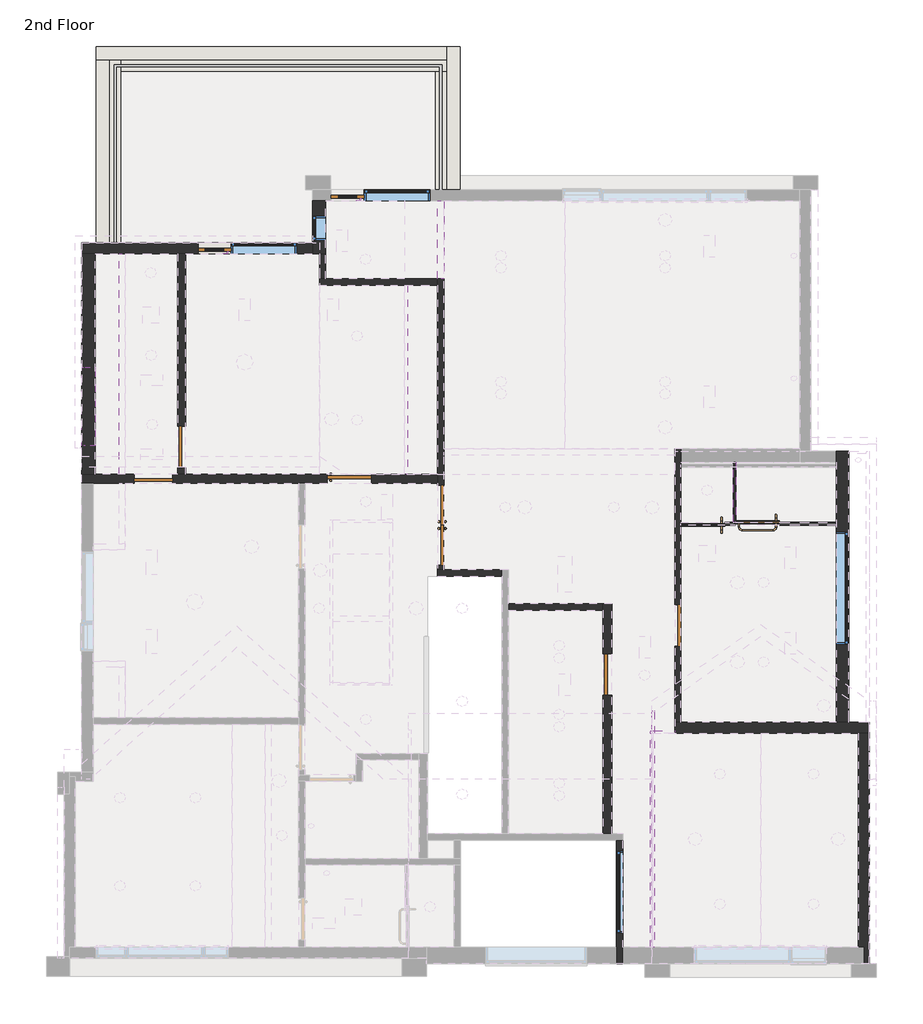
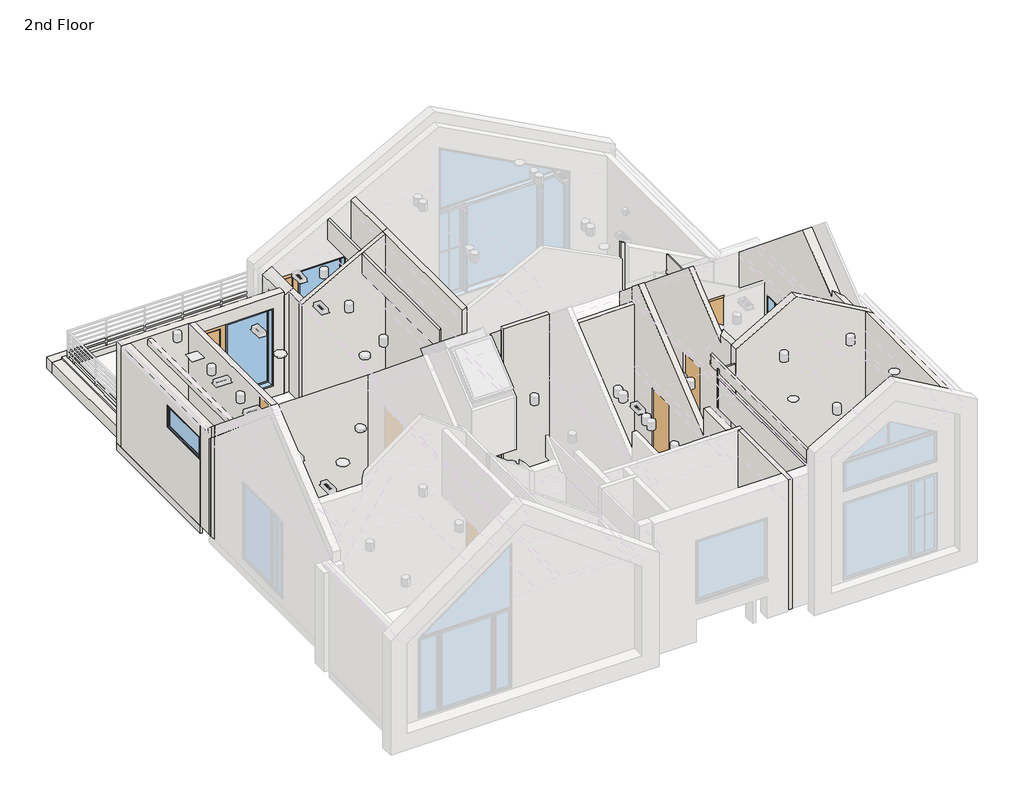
# One storey, part 2 of 6: 37 walls, 17 doors, 6 windows.
"""IFC4 building model written with IfcOpenShell, lengths in millimetres."""

from ifc_helpers import new_model, si_unit, frame, origin, place, context, project, spatial, polyline, outline, extrude, faceted_brep, transform, mapped, element, save
from components import door_f305abca, door_1181abbb, door_c8a44f2a, door_60dcc4f9, door_4c06adda, door_9242a0c5, door_301a0385, door_072e9414, door_679f055a, door_accf3dfc, door_96b5f492, door_11404014, door_c850c315, door_a6d17446, default_1_7d7789d7, default_1_42b8000c, default_1_0d0a700f, default_1_19df42c6, default_1_91f42d4c, default_1_39be3eb0

model = new_model("IFC4")

# Units and contexts
model_context = context("Model", 3, world=origin())
ifc_project = project(units=[si_unit("LENGTHUNIT", "METRE", prefix="MILLI")], contexts=[model_context])

# Site, building, storey
site = spatial("IfcSite", under=ifc_project)
building = spatial("IfcBuilding", under=site)
storey = spatial("IfcBuildingStorey", under=building, Name="2nd Floor", Elevation=3048.0)

# Doors
placement = place(None, origin())
door_shape = door_f305abca(model_context)
element("IfcDoor", 1, ObjectType="Planitar - Swap_Flush Panel : Planitar - Swap_Flush Panel", at=placement, inside=storey, context=model_context, shape_type="MappedRepresentation", body=[
    mapped(door_shape, transform((18552.3049773, 5441.3605234, 3048.0), x_axis=(0.0, 1.0, 0.0), y_axis=(-1.0, 0.0, 0.0), z_axis=(0.0, 0.0, 1.0))),
])
element("IfcDoor", 2, ObjectType="Planitar - Swap_Flush Panel : Planitar - Swap_Flush Panel", at=placement, inside=storey, context=model_context, shape_type="MappedRepresentation", body=[
    mapped(door_shape, transform((17199.7549773, 4537.2191332, 3048.0), x_axis=(0.0, -1.0, 0.0), y_axis=(1.0, 0.0, 0.0), z_axis=(0.0, 0.0, 1.0))),
])
door_2_shape = door_1181abbb(model_context)
element("IfcDoor", 3, ObjectType="Planitar - Swap_Flush Panel : Planitar - Swap_Flush Panel", at=placement, inside=storey, context=model_context, shape_type="MappedRepresentation", body=[
    mapped(door_2_shape, transform((12462.6549773, 8177.5409405, 3048.0), x_axis=(1.0, 0.0, 0.0), y_axis=(0.0, 1.0, 0.0), z_axis=(0.0, 0.0, 1.0))),
])
door_3_shape = door_c8a44f2a(model_context)
element("IfcDoor", 4, ObjectType="Planitar - Swap_Flush Panel : Planitar - Swap_Flush Panel", at=placement, inside=storey, context=model_context, shape_type="MappedRepresentation", body=[
    mapped(door_3_shape, transform((9344.8049773, 8735.2484362, 3048.0), x_axis=(0.0, 1.0, 0.0), y_axis=(-1.0, 0.0, 0.0), z_axis=(0.0, 0.0, 1.0))),
])
door_4_shape = door_60dcc4f9(model_context)
element("IfcDoor", 5, ObjectType="Planitar - Swap_Full Glass_Panel : Planitar - Swap_Full Glass_Panel", at=placement, inside=storey, context=model_context, shape_type="MappedRepresentation", body=[
    mapped(door_4_shape, transform((12430.9049773, 13352.7909405, 3352.8), x_axis=(-1.0, 0.0, 0.0), y_axis=(0.0, -1.0, 0.0), z_axis=(0.0, 0.0, 1.0))),
])
element("IfcDoor", 6, ObjectType="Planitar - Swap_Full Glass_Panel : Planitar - Swap_Full Glass_Panel", at=placement, inside=storey, context=model_context, shape_type="MappedRepresentation", body=[
    mapped(door_4_shape, transform((9973.4549773, 12374.8909405, 3352.8), x_axis=(-1.0, 0.0, 0.0), y_axis=(0.0, -1.0, 0.0), z_axis=(0.0, 0.0, 1.0))),
])
door_5_shape = door_4c06adda(model_context)
element("IfcDoor", 7, ObjectType="Planitar - Swap_Full Glass_Panel_D2 : Planitar - Swap_Full Glass_Panel_D2", at=placement, inside=storey, context=model_context, shape_type="MappedRepresentation", body=[
    mapped(door_5_shape, transform((18990.4549773, 7294.8909405, 3048.0), x_axis=(-1.0, 0.0, 0.0), y_axis=(0.0, -1.0, 0.0), z_axis=(0.0, 0.0, 1.0))),
])
door_6_shape = door_9242a0c5(model_context)
element("IfcDoor", 8, ObjectType="Planitar - Swap_Flush Panel : Planitar - Swap_Flush Panel", at=placement, inside=storey, context=model_context, shape_type="MappedRepresentation", body=[
    mapped(door_6_shape, transform((14177.1549773, 6926.5909405, 3048.0), x_axis=(0.0, -1.0, 0.0), y_axis=(1.0, 0.0, 0.0), z_axis=(0.0, 0.0, 1.0))),
])
door_7_shape = door_301a0385(model_context)
element("IfcDoor", 9, ObjectType="Planitar - Swap_Flush Panel : Planitar - Swap_Flush Panel", at=placement, inside=storey, context=model_context, shape_type="MappedRepresentation", body=[
    mapped(door_7_shape, transform((14177.1549773, 7663.1909405, 3048.0), x_axis=(0.0, 1.0, 0.0), y_axis=(-1.0, 0.0, 0.0), z_axis=(0.0, 0.0, 1.0))),
])
door_8_shape = door_072e9414(model_context)
element("IfcDoor", 10, ObjectType="Planitar - Swap_Full Glass_Panel_D2 : Planitar - Swap_Full Glass_Panel_D2", at=placement, inside=storey, context=model_context, shape_type="MappedRepresentation", body=[
    mapped(door_8_shape, transform((19993.7549773, 7345.6909405, 3048.0), x_axis=(-1.0, 0.0, 0.0), y_axis=(0.0, -1.0, 0.0), z_axis=(0.0, 0.0, 1.0))),
])
door_9_shape = door_679f055a(model_context)
element("IfcDoor", 11, ObjectType="Planitar - Swap_Flush Panel : Planitar - Swap_Flush Panel", at=placement, inside=storey, context=model_context, shape_type="MappedRepresentation", body=[
    mapped(door_9_shape, transform((8849.5049773, 8126.7409405, 3048.0), x_axis=(1.0, 0.0, 0.0), y_axis=(0.0, 1.0, 0.0), z_axis=(0.0, 0.0, 1.0))),
])
door_10_shape = door_accf3dfc(model_context)
element("IfcDoor", 12, ObjectType="Planitar - Single Door_Swapper : 7'0\" x 2'0\"", at=placement, inside=storey, context=model_context, shape_type="MappedRepresentation", body=[
    mapped(door_10_shape, transform((12430.9049773, 13378.1909405, 3352.8), x_axis=(-1.0, 0.0, 0.0), y_axis=(0.0, -1.0, 0.0), z_axis=(0.0, 0.0, 1.0))),
])
element("IfcDoor", 13, ObjectType="Planitar - Single Door_Swapper : 7'0\" x 2'0\"", at=placement, inside=storey, context=model_context, shape_type="MappedRepresentation", body=[
    mapped(door_10_shape, transform((9973.4549773, 12400.2909405, 3352.8), x_axis=(-1.0, 0.0, 0.0), y_axis=(0.0, -1.0, 0.0), z_axis=(0.0, 0.0, 1.0))),
])
door_11_shape = door_96b5f492(model_context)
element("IfcDoor", 14, ObjectType="Planitar -Double Door_Swapper : 9'-0\" x 4'-10\"", at=placement, inside=storey, context=model_context, shape_type="MappedRepresentation", body=[
    mapped(door_11_shape, transform((14151.7549773, 6685.2909405, 3048.0), x_axis=(0.0, -1.0, 0.0), y_axis=(1.0, 0.0, 0.0), z_axis=(0.0, 0.0, 1.0))),
])
door_12_shape = door_11404014(model_context)
element("IfcDoor", 15, ObjectType="Planitar - Single Door_Swapper : 9'0\" x 2'8\"", at=placement, inside=storey, context=model_context, shape_type="MappedRepresentation", body=[
    mapped(door_12_shape, transform((12462.6549773, 8152.1409405, 3048.0), x_axis=(1.0, 0.0, 0.0), y_axis=(0.0, 1.0, 0.0), z_axis=(0.0, 0.0, 1.0))),
])
door_13_shape = door_c850c315(model_context)
element("IfcDoor", 16, ObjectType="Planitar - Single Door_Swapper : 9'0\" x 2'8\"", at=placement, inside=storey, context=model_context, shape_type="MappedRepresentation", body=[
    mapped(door_13_shape, transform((18990.4549773, 7320.2909405, 3048.0), x_axis=(-1.0, 0.0, 0.0), y_axis=(0.0, -1.0, 0.0), z_axis=(0.0, 0.0, 1.0))),
])
door_14_shape = door_a6d17446(model_context)
element("IfcDoor", 17, ObjectType="Planitar - Single Door_Swapper : 9'0\" x 2'8\"", at=placement, inside=storey, context=model_context, shape_type="MappedRepresentation", body=[
    mapped(door_14_shape, transform((19993.7549773, 7320.2909405, 3048.0), x_axis=(-1.0, 0.0, 0.0), y_axis=(0.0, -1.0, 0.0), z_axis=(0.0, 0.0, 1.0))),
])

# Walls
element("IfcWall", 18, ObjectType="Planitar - Generic 9\"", at=placement, inside=storey, context=model_context, shape_type="Brep", body=[
    faceted_brep([(21676.5049773, 3656.3409405, 3048.0), (21676.5049773, 8660.1409405, 3048.0), (21676.5049773, 8660.1409405, 5619.75), (21676.5049773, 8660.1409405, 5723.9400838), (21676.5049773, 8609.3409405, 5765.6161173), (21676.5049773, 5565.4864039, 8262.7772128), (21676.5049773, 4086.3456855, 7048.6447778), (21676.5049773, 4086.3456855, 7256.2766673), (21676.5049773, 3656.3409405, 7256.2766673), (21676.5049773, 7174.2409405, 3352.8), (21676.5049773, 5091.4409405, 3352.8), (21676.5049773, 5091.4409405, 5486.4), (21676.5049773, 7174.2409405, 5486.4), (21447.9049773, 3656.3409405, 3048.0), (21447.9049773, 3656.3409405, 7388.2589388), (21447.9049773, 4248.2226223, 7388.2589388), (21447.9049773, 4248.2226223, 7181.519248), (21447.9049773, 5565.4864039, 8262.7772128), (21447.9049773, 8456.9409405, 5890.6442178), (21447.9049773, 8660.1409405, 5723.9400838), (21447.9049773, 8660.1409405, 3048.0), (21447.9049773, 8456.9409405, 3048.0), (21447.9049773, 8412.4909405, 3048.0), (21447.9049773, 8361.6909405, 3048.0), (21447.9049773, 7345.6909405, 3048.0), (21447.9049773, 7294.8909405, 3048.0), (21447.9049773, 7174.2409405, 3352.8), (21447.9049773, 7174.2409405, 5486.4), (21447.9049773, 5091.4409405, 5486.4), (21447.9049773, 5091.4409405, 3352.8), (21473.3049773, 3656.3409405, 3048.0), (21473.3049773, 8660.1409405, 3048.0)], [[[0, 1, 2, 3, 4, 5, 6, 7, 8], [9, 10, 11, 12]], [[13, 14, 15, 16, 17, 18, 19, 20, 21, 22, 23, 24, 25], [26, 27, 28, 29]], [[1, 0, 30, 13, 25, 24, 23, 22, 21, 20, 31]], [[3, 2, 1, 31, 20, 19]], [[27, 26, 9, 12]], [[28, 27, 12, 11]], [[29, 28, 11, 10]], [[26, 29, 10, 9]], [[0, 8, 14, 13, 30]], [[6, 16, 15, 7]], [[8, 7, 15, 14]], [[6, 5, 17, 16]], [[5, 4, 3, 19, 18, 17]]]),
])
element("IfcWall", 19, ObjectType="Planitar - Generic 9 1/2\"", at=placement, inside=storey, context=model_context, shape_type="Brep", body=[
    faceted_brep([(11783.2049773, 13276.5909405, 3048.0), (11783.2049773, 12501.8909405, 3048.0), (11783.2049773, 12298.6909405, 3048.0), (11783.2049773, 12298.6909405, 5742.6488962), (11783.2049773, 13276.5909405, 5742.6488962), (11783.2049773, 12539.9909405, 5486.4), (11783.2049773, 12539.9909405, 3352.8), (11783.2049773, 12997.1909405, 3352.8), (11783.2049773, 12997.1909405, 5486.4), (12024.5049773, 12298.6909405, 3048.0), (12024.5049773, 13276.5909405, 3048.0), (12024.5049773, 13276.5909405, 5872.3040631), (12024.5049773, 12298.6909405, 5872.3040631), (12024.5049773, 12539.9909405, 3352.8), (12024.5049773, 12539.9909405, 5486.4), (12024.5049773, 12997.1909405, 5486.4), (12024.5049773, 12997.1909405, 3352.8), (11910.2049773, 12298.6909405, 3048.0), (11872.1049773, 13276.5909405, 5790.4165892), (11910.2049773, 12298.6909405, 5810.8884577), (11872.1049773, 12298.6909405, 5790.4165892)], [[[0, 1, 2, 3, 4], [5, 6, 7, 8]], [[9, 10, 11, 12], [13, 14, 15, 16]], [[2, 1, 0, 10, 9, 17]], [[0, 4, 18, 11, 10]], [[3, 2, 17, 9, 12, 19, 20]], [[13, 6, 5, 14]], [[14, 5, 8, 15]], [[15, 8, 7, 16]], [[6, 13, 16, 7]], [[4, 3, 20, 19, 12, 11, 18]]]),
])
element("IfcWall", 20, ObjectType="Planitar - Generic 8\"", at=placement, inside=storey, context=model_context, shape_type="Brep", body=[
    faceted_brep([(11783.2049773, 12501.8909405, 3048.0), (8246.2549773, 12501.8909405, 3048.0), (8043.0549773, 12501.8909405, 3048.0), (7789.0549773, 12501.8909405, 3048.0), (7579.5049773, 12501.8909405, 3048.0), (7528.7049773, 12501.8909405, 3048.0), (7528.7049773, 12501.8909405, 5842.0), (11783.2049773, 12501.8909405, 5842.0), (11497.4549773, 12501.8909405, 5486.4), (9668.6549773, 12501.8909405, 5486.4), (9668.6549773, 12501.8909405, 3352.8), (11497.4549773, 12501.8909405, 3352.8), (7528.7049773, 12298.6909405, 3048.0), (7770.0049773, 12298.6909405, 3048.0), (9294.0049773, 12298.6909405, 3048.0), (9446.4049773, 12298.6909405, 3048.0), (11783.2049773, 12298.6909405, 3048.0), (11783.2049773, 12298.6909405, 5742.6488962), (11783.2049773, 12298.6909405, 5842.0), (9446.4049773, 12298.6909405, 5842.0), (9294.0049773, 12298.6909405, 5842.0), (7770.0049773, 12298.6909405, 5842.0), (7528.7049773, 12298.6909405, 5842.0), (11497.4549773, 12298.6909405, 3352.8), (9668.6549773, 12298.6909405, 3352.8), (9668.6549773, 12298.6909405, 5486.4), (11497.4549773, 12298.6909405, 5486.4)], [[[0, 1, 2, 3, 4, 5, 6, 7], [8, 9, 10, 11]], [[12, 13, 14, 15, 16, 17, 18, 19, 20, 21, 22], [23, 24, 25, 26]], [[5, 4, 3, 2, 1, 0, 16, 15, 14, 13, 12]], [[0, 7, 18, 17, 16]], [[6, 5, 12, 22]], [[7, 6, 22, 21, 20, 19, 18]], [[24, 10, 9, 25]], [[25, 9, 8, 26]], [[10, 24, 23, 11]], [[11, 23, 26, 8]]]),
])
element("IfcWall", 21, ObjectType="Planitar - Generic 9 1/2\"", at=placement, inside=storey, context=model_context, shape_type="Brep", body=[
    faceted_brep([(7528.7049773, 12298.6909405, 5842.0), (7528.7049773, 12298.6909405, 3048.0), (7528.7049773, 8713.1282405, 3048.0), (7528.7049773, 8713.1282405, 5842.0), (7528.7049773, 8755.3909405, 5486.4), (7528.7049773, 8755.3909405, 4876.8), (7528.7049773, 10203.1909405, 4876.8), (7528.7049773, 10203.1909405, 5486.4), (7528.7049773, 8306.7282405, 3048.0), (7528.7049773, 8234.6909405, 3048.0), (7528.7049773, 8234.6909405, 5764.2339008), (7528.7049773, 8306.7282405, 5703.4643997), (7770.0049773, 8234.6909405, 3048.0), (7770.0049773, 12298.6909405, 3048.0), (7770.0049773, 12298.6909405, 5842.0), (7770.0049773, 8361.6909405, 5842.0), (7770.0049773, 8361.6909405, 5968.7867806), (7770.0049773, 8234.6909405, 6072.9768644), (7770.0049773, 8755.3909405, 4876.8), (7770.0049773, 8755.3909405, 5486.4), (7770.0049773, 10203.1909405, 5486.4), (7770.0049773, 10203.1909405, 4876.8), (7535.2871773, 8306.7282405, 3048.0), (7535.2871773, 8713.1282405, 3048.0), (7535.2871773, 8361.6909405, 5842.0), (7535.2871773, 8361.6909405, 5968.7867806), (7535.2871773, 8234.6909405, 6072.9768644), (7535.2871773, 8234.6909405, 5764.2339008), (7535.2871773, 8306.7282405, 5703.4643997), (7535.2871773, 8713.1282405, 5842.0)], [[[0, 1, 2, 3], [4, 5, 6, 7]], [[8, 9, 10, 11]], [[12, 13, 14, 15, 16, 17], [18, 19, 20, 21]], [[13, 12, 9, 8, 22, 23, 2, 1]], [[1, 0, 14, 13]], [[19, 18, 5, 4]], [[20, 19, 4, 7]], [[21, 20, 7, 6]], [[18, 21, 6, 5]], [[16, 15, 24, 25]], [[9, 12, 17, 26, 27, 10]], [[22, 28, 27, 26, 25, 24, 29, 23]], [[23, 29, 3, 2]], [[28, 22, 8, 11]], [[27, 28, 11, 10]], [[14, 0, 3, 29, 24, 15]], [[17, 16, 25, 26]]]),
])
element("IfcWall", 22, ObjectType="Planitar - Generic 4 1/2\"", at=placement, inside=storey, context=model_context, shape_type="Brep", body=[
    faceted_brep([(17396.7017773, 1484.6409405, 3048.0), (17396.7017773, -795.0090595, 3048.0), (17396.7017773, -795.0090595, 6629.4), (17396.7017773, -490.2090595, 6629.4), (17396.7017773, 1484.6409405, 6629.4), (17396.7017773, -236.2090595, 3962.4), (17396.7017773, 1287.7909405, 3962.4), (17396.7017773, 1287.7909405, 5181.6), (17396.7017773, -236.2090595, 5181.6), (17511.0017773, 1484.6409405, 3048.0), (17511.0017773, 1484.6409405, 6629.4), (17511.0017773, -490.2090595, 6629.4), (17511.0017773, -795.0090595, 6629.4), (17511.0017773, -795.0090595, 3048.0), (17511.0017773, -490.2090595, 3048.0), (17511.0017773, -236.2090595, 3962.4), (17511.0017773, -236.2090595, 5181.6), (17511.0017773, 1287.7909405, 5181.6), (17511.0017773, 1287.7909405, 3962.4)], [[[0, 1, 2, 3, 4], [5, 6, 7, 8]], [[9, 10, 11, 12, 13, 14], [15, 16, 17, 18]], [[1, 0, 9, 14, 13]], [[0, 4, 10, 9]], [[16, 15, 5, 8]], [[17, 16, 8, 7]], [[18, 17, 7, 6]], [[15, 18, 6, 5]], [[2, 1, 13, 12]], [[4, 3, 2, 12, 11, 10]]]),
])
element("IfcWall", 23, ObjectType="Planitar - Generic 4 1/2\"", at=placement, inside=storey, context=model_context, shape_type="Brep", body=[
    faceted_brep([(15282.0549773, 6469.3909405, 2807.5), (14151.7549773, 6469.3909405, 2807.5), (14151.7549773, 6469.3909405, 2997.2), (15282.0549773, 6469.3909405, 2997.2), (14151.7549773, 6355.0909405, 2807.5), (15282.0549773, 6355.0909405, 2807.5), (15282.0549773, 6355.0909405, 2997.2), (14151.7549773, 6355.0909405, 2997.2), (14151.7549773, 6405.8909405, 2997.2)], [[[0, 1, 2, 3]], [[4, 5, 6, 7]], [[1, 0, 5, 4]], [[5, 0, 3, 6]], [[3, 2, 8, 7, 6]], [[1, 4, 7, 8, 2]]]),
    faceted_brep([(14094.6049773, 6469.3909405, 7620.0), (15282.0549773, 6469.3909405, 7620.0), (15282.0549773, 6469.3909405, 7521.2190287), (15282.0549773, 6469.3909405, 3048.0), (14208.9049773, 6469.3909405, 3048.0), (14094.6049773, 6469.3909405, 3048.0), (14094.6049773, 6469.3909405, 7521.2190287), (15282.0549773, 6355.0909405, 7620.0), (14094.6049773, 6355.0909405, 7620.0), (14094.6049773, 6355.0909405, 3048.0), (15282.0549773, 6355.0909405, 3048.0)], [[[0, 1, 2, 3, 4, 5, 6]], [[7, 8, 9, 10]], [[1, 0, 8, 7]], [[1, 7, 10, 3, 2]], [[3, 10, 9, 5, 4]], [[8, 0, 6, 5, 9]]]),
])
element("IfcWall", 24, ObjectType="Planitar - Generic 4 1/2\"", at=placement, inside=storey, context=model_context, shape_type="Brep", body=[
    faceted_brep([(14208.9049773, 6469.3909405, 7521.2190287), (14208.9049773, 6469.3909405, 3048.0), (14208.9049773, 6558.2909405, 3048.0), (14208.9049773, 6558.2909405, 5791.2), (14208.9049773, 8031.4909405, 5791.2), (14208.9049773, 8031.4909405, 3048.0), (14208.9049773, 11835.1409405, 3048.0), (14208.9049773, 11835.1409405, 5791.2), (14208.9049773, 11835.1409405, 7046.0245214), (14208.9049773, 8234.6909405, 7046.0245214), (14208.9049773, 8234.6909405, 6072.9768644), (14094.6049773, 6469.3909405, 3048.0), (14094.6049773, 6469.3909405, 7521.2190287), (14094.6049773, 8069.5909405, 6208.4239733), (14094.6049773, 8234.6909405, 6072.9768644), (14094.6049773, 8234.6909405, 6984.608916), (14094.6049773, 11720.8409405, 6984.608916), (14094.6049773, 11835.1409405, 6984.608916), (14094.6049773, 11835.1409405, 5791.2), (14094.6049773, 11835.1409405, 3048.0), (14094.6049773, 11720.8409405, 3048.0), (14094.6049773, 8234.6909405, 3048.0), (14094.6049773, 8069.5909405, 3048.0), (14094.6049773, 8031.4909405, 3048.0), (14094.6049773, 8031.4909405, 5791.2), (14094.6049773, 6558.2909405, 5791.2), (14094.6049773, 6558.2909405, 3048.0)], [[[0, 1, 2, 3, 4, 5, 6, 7, 8, 9, 10]], [[11, 12, 13, 14, 15, 16, 17, 18, 19, 20, 21, 22, 23, 24, 25, 26]], [[19, 6, 5, 23, 22, 21, 20]], [[1, 11, 26, 2]], [[11, 1, 0, 12]], [[15, 14, 10, 9]], [[12, 0, 10, 14, 13]], [[6, 19, 18, 17, 8, 7]], [[9, 8, 17, 16, 15]], [[4, 24, 23, 5]], [[24, 4, 3, 25]], [[25, 3, 2, 26]]]),
])
element("IfcWall", 25, ObjectType="Planitar - Generic 4 1/2\"", at=placement, inside=storey, context=model_context, shape_type="Brep", body=[
    faceted_brep([(14094.6049773, 11835.1409405, 6984.608916), (14094.6049773, 11835.1409405, 3048.0), (12024.5049773, 11835.1409405, 3048.0), (11910.2049773, 11835.1409405, 3048.0), (11910.2049773, 11835.1409405, 5810.8884577), (12024.5049773, 11835.1409405, 5872.3040631), (13485.1017773, 11835.1409405, 6657.1110332), (13535.9017773, 11835.1409405, 6684.4068578), (14094.6049773, 11720.8409405, 3048.0), (14094.6049773, 11720.8409405, 6984.608916), (13535.9017773, 11720.8409405, 6684.4068578), (13485.1017773, 11720.8409405, 6657.1110332), (11910.2049773, 11720.8409405, 5810.8884577), (11910.2049773, 11720.8409405, 3048.0)], [[[0, 1, 2, 3, 4, 5, 6, 7]], [[8, 9, 10, 11, 12, 13]], [[3, 2, 1, 8, 13]], [[4, 3, 13, 12]], [[0, 9, 8, 1]], [[0, 7, 6, 5, 4, 12, 11, 10, 9]]]),
])
element("IfcWall", 26, ObjectType="Planitar - Generic 4 1/2\"", at=placement, inside=storey, context=model_context, shape_type="SweptSolid", body=[
    extrude(outline(polyline([(3048.0, 12024.5049773), (5872.3040631, 12024.5049773), (5810.8884577, 11910.2049773), (3048.0, 11910.2049773), (3048.0, 12024.5049773)])), frame((0.0, 11835.1409405, 0.0), z_axis=(0.0, 1.0, 0.0), x_axis=(0.0, 0.0, 1.0)), (0.0, 0.0, 1.0), 463.55),
])
element("IfcWall", 27, ObjectType="Planitar - Generic 6 1/2\"", at=placement, inside=storey, context=model_context, shape_type="Brep", body=[
    faceted_brep([(14094.6049773, 8069.5909405, 3048.0), (14094.6049773, 8069.5909405, 6208.4239733), (11643.5049773, 8069.5909405, 6208.4239733), (11529.2049773, 8069.5909405, 6208.4239733), (7731.9049773, 8069.5909405, 6208.4239733), (7535.2871773, 8069.5909405, 6208.4239733), (7535.2871773, 8069.5909405, 5903.5095904), (7528.7049773, 8069.5909405, 5903.5095904), (7528.7049773, 8069.5909405, 3048.0), (7731.9049773, 8069.5909405, 3048.0), (8493.9049773, 8069.5909405, 3048.0), (8493.9049773, 8069.5909405, 5791.2), (9205.1049773, 8069.5909405, 5791.2), (9205.1049773, 8069.5909405, 3048.0), (11529.2049773, 8069.5909405, 3048.0), (11643.5049773, 8069.5909405, 3048.0), (12056.2549773, 8069.5909405, 3048.0), (12056.2549773, 8069.5909405, 5791.2), (12869.0549773, 8069.5909405, 5791.2), (12869.0549773, 8069.5909405, 3048.0), (14094.6049773, 8234.6909405, 6072.9768644), (14094.6049773, 8234.6909405, 3048.0), (12869.0549773, 8234.6909405, 3048.0), (12869.0549773, 8234.6909405, 5791.2), (12056.2549773, 8234.6909405, 5791.2), (12056.2549773, 8234.6909405, 3048.0), (9446.4049773, 8234.6909405, 3048.0), (9294.0049773, 8234.6909405, 3048.0), (9205.1049773, 8234.6909405, 3048.0), (9205.1049773, 8234.6909405, 5791.2), (8493.9049773, 8234.6909405, 5791.2), (8493.9049773, 8234.6909405, 3048.0), (7770.0049773, 8234.6909405, 3048.0), (7528.7049773, 8234.6909405, 3048.0), (7528.7049773, 8234.6909405, 5764.2339008), (7535.2871773, 8234.6909405, 5764.2339008), (7535.2871773, 8234.6909405, 6072.9768644), (7770.0049773, 8234.6909405, 6072.9768644), (9294.0049773, 8234.6909405, 6072.9768644), (9446.4049773, 8234.6909405, 6072.9768644), (12397.7017773, 8234.6909405, 6072.9768644)], [[[0, 1, 2, 3, 4, 5, 6, 7, 8, 9, 10, 11, 12, 13, 14, 15, 16, 17, 18, 19]], [[20, 21, 22, 23, 24, 25, 26, 27, 28, 29, 30, 31, 32, 33, 34, 35, 36, 37, 38, 39, 40]], [[21, 0, 19, 22]], [[13, 28, 27, 26, 25, 16, 15, 14]], [[8, 33, 32, 31, 10, 9]], [[33, 8, 7, 34]], [[1, 0, 21, 20]], [[1, 20, 40, 39, 38, 37, 36, 5, 4, 3, 2]], [[35, 6, 5, 36]], [[6, 35, 34, 7]], [[13, 12, 29, 28]], [[12, 11, 30, 29]], [[11, 10, 31, 30]], [[18, 23, 22, 19]], [[23, 18, 17, 24]], [[24, 17, 16, 25]]]),
])
element("IfcWall", 28, ObjectType="Planitar - Generic 6\"", at=placement, inside=storey, context=model_context, shape_type="SweptSolid", body=[
    extrude(outline(polyline([(12298.6909405, 5842.0), (12298.6909405, 3048.0), (9116.2484362, 3048.0), (9116.2484362, 5791.2), (8354.2484362, 5791.2), (8354.2484362, 3048.0), (8234.6909405, 3048.0), (8234.6909405, 6072.9768644), (8361.6909405, 5968.7867806), (8361.6909405, 5842.0), (12298.6909405, 5842.0)])), frame((9294.0049773, 0.0, 0.0), z_axis=(1.0, 0.0, 0.0), x_axis=(0.0, 1.0, 0.0)), (0.0, 0.0, 1.0), 152.4),
])
element("IfcWall", 29, ObjectType="Planitar - Generic 6 1/2\"", at=placement, inside=storey, context=model_context, shape_type="Brep", body=[
    faceted_brep([(17307.7049773, 1598.9409405, 6629.4), (17307.7049773, 1598.9409405, 3048.0), (17307.7049773, 4156.2191332, 3048.0), (17307.7049773, 4156.2191332, 5791.2), (17307.7049773, 4918.2191332, 5791.2), (17307.7049773, 4918.2191332, 3048.0), (17307.7049773, 5840.7409405, 3048.0), (17307.7049773, 5840.7409405, 8036.9599433), (17307.7049773, 5565.4864039, 8262.7772128), (17307.7049773, 2608.5909405, 5835.65), (17307.7049773, 2608.5909405, 6629.4), (17142.6049773, 1598.9409405, 3048.0), (17142.6049773, 1598.9409405, 6629.4), (17142.6049773, 2608.5909405, 6629.4), (17142.6049773, 2608.5909405, 5835.65), (17142.6049773, 5565.4864039, 8262.7772128), (17142.6049773, 5840.7409405, 8036.9599433), (17142.6049773, 5840.7409405, 7620.0), (17142.6049773, 5840.7409405, 3048.0), (17142.6049773, 5726.4409405, 3048.0), (17142.6049773, 4918.2191332, 3048.0), (17142.6049773, 4918.2191332, 5791.2), (17142.6049773, 4156.2191332, 5791.2), (17142.6049773, 4156.2191332, 3048.0)], [[[0, 1, 2, 3, 4, 5, 6, 7, 8, 9, 10]], [[11, 12, 13, 14, 15, 16, 17, 18, 19, 20, 21, 22, 23]], [[1, 11, 23, 2]], [[18, 6, 5, 20, 19]], [[1, 0, 12, 11]], [[7, 6, 18, 17, 16]], [[10, 9, 14, 13]], [[12, 0, 10, 13]], [[7, 16, 15, 8]], [[14, 9, 8, 15]], [[22, 3, 2, 23]], [[3, 22, 21, 4]], [[4, 21, 20, 5]]]),
])
element("IfcWall", 30, ObjectType="Planitar - Generic 4 1/2\"", at=placement, inside=storey, context=model_context, shape_type="SweptSolid", body=[
    extrude(outline(polyline([(15396.3549773, 5840.7409405), (17142.6049773, 5840.7409405), (17142.6049773, 5726.4409405), (15396.3549773, 5726.4409405), (15396.3549773, 5840.7409405)])), frame((0.0, 0.0, 3048.0), z_axis=(0.0, 0.0, 1.0), x_axis=(1.0, 0.0, 0.0)), (0.0, 0.0, 1.0), 4572.0),
])
element("IfcWall", 31, ObjectType="Planitar - Generic 8\"", at=placement, inside=storey, context=model_context, shape_type="Brep", body=[
    faceted_brep([(22057.6017773, 3656.3409405, 7036.2503272), (22057.6017773, 3656.3409405, 6695.6812621), (22057.6017773, 3656.3409405, 5619.75), (22057.6017773, 3656.3409405, 3048.0), (22006.8011695, 3656.3409405, 3048.0), (21676.5049773, 3656.3409405, 3048.0), (21447.9049773, 3656.3409405, 3048.0), (18584.0549773, 3656.3409405, 3048.0), (18469.7549773, 3656.3409405, 3048.0), (18469.7549773, 3656.3409405, 7281.8281117), (18584.0549773, 3656.3409405, 7347.8192475), (20051.0017773, 3656.3409405, 8194.7613773), (21447.9049773, 3656.3409405, 7388.2589388), (21676.5049773, 3656.3409405, 7256.2766673), (22057.6017773, 3453.1409405, 3048.0), (22057.6017773, 3453.1409405, 7036.2503272), (21854.4017773, 3453.1409405, 7153.5679019), (20051.0017773, 3453.1409405, 8194.7613773), (18469.7549773, 3453.1409405, 7281.8281117), (18469.7549773, 3453.1409405, 6877.8298503), (18469.7549773, 3453.1409405, 5803.9), (18469.7549773, 3453.1409405, 3048.0), (21854.4017773, 3453.1409405, 3048.0)], [[[0, 1, 2, 3, 4, 5, 6, 7, 8, 9, 10, 11, 12, 13]], [[14, 15, 16, 17, 18, 19, 20, 21, 22]], [[8, 7, 6, 5, 4, 3, 14, 22, 21]], [[8, 21, 20, 19, 18, 9]], [[0, 13, 12, 11, 17, 16, 15]], [[11, 10, 9, 18, 17]], [[0, 15, 14, 3, 2, 1]]]),
])
element("IfcWall", 32, ObjectType="Planitar - Generic 4 1/2\"", at=placement, inside=storey, context=model_context, shape_type="Brep", body=[
    faceted_brep([(18584.0549773, 8698.2409405, 3048.0), (18584.0549773, 8698.2409405, 7032.3766091), (18584.0549773, 8660.1409405, 7032.3766091), (18584.0549773, 8660.1409405, 5888.2099031), (18584.0549773, 8660.1409405, 5723.9400838), (18584.0549773, 8456.9409405, 5890.6442178), (18584.0549773, 5565.4864039, 8262.7772128), (18584.0549773, 4198.6196075, 7140.8032916), (18584.0549773, 4198.6196075, 7347.8192475), (18584.0549773, 3656.3409405, 7347.8192475), (18584.0549773, 3656.3409405, 3048.0), (18584.0549773, 5060.3605234, 3048.0), (18584.0549773, 5060.3605234, 5791.2), (18584.0549773, 5822.3605234, 5791.2), (18584.0549773, 5822.3605234, 3048.0), (18584.0549773, 7294.8909405, 3048.0), (18584.0549773, 7345.6909405, 3048.0), (18584.0549773, 8361.6909405, 3048.0), (18584.0549773, 8412.4909405, 3048.0), (18584.0549773, 8456.9409405, 3048.0), (18469.7549773, 8698.2409405, 7093.7922145), (18469.7549773, 8698.2409405, 6668.5186091), (18469.7549773, 8698.2409405, 5803.9), (18469.7549773, 8698.2409405, 3048.0), (18469.7549773, 5822.3605234, 3048.0), (18469.7549773, 5822.3605234, 5791.2), (18469.7549773, 5060.3605234, 5791.2), (18469.7549773, 5060.3605234, 3048.0), (18469.7549773, 3656.3409405, 3048.0), (18469.7549773, 3656.3409405, 7281.8281117), (18469.7549773, 4117.6811391, 7281.8281117), (18469.7549773, 4117.6811391, 7074.3660564), (18469.7549773, 5565.4864039, 8262.7772128), (18469.7549773, 8234.6909405, 6072.9768644), (18469.7549773, 8660.1409405, 5723.9400838), (18469.7549773, 8660.1409405, 7093.7922145)], [[[0, 1, 2, 3, 4, 5, 6, 7, 8, 9, 10, 11, 12, 13, 14, 15, 16, 17, 18, 19]], [[20, 21, 22, 23, 24, 25, 26, 27, 28, 29, 30, 31, 32, 33, 34, 35]], [[10, 28, 27, 11]], [[23, 0, 19, 18, 17, 16, 15, 14, 24]], [[0, 23, 22, 21, 20, 1]], [[28, 10, 9, 29]], [[35, 34, 4, 3, 2]], [[7, 31, 30, 8]], [[29, 9, 8, 30]], [[4, 34, 33, 32, 6, 5]], [[31, 7, 6, 32]], [[35, 2, 1, 20]], [[13, 25, 24, 14]], [[25, 13, 12, 26]], [[26, 12, 11, 27]]]),
])
element("IfcWall", 33, ObjectType="Planitar - Generic 8\"", at=placement, inside=storey, context=model_context, shape_type="Brep", body=[
    faceted_brep([(22057.6017773, -795.0090595, 3048.0), (22057.6017773, 3453.1409405, 3048.0), (22057.6017773, 3453.1409405, 7036.2503272), (22057.6017773, -795.0090595, 7036.2503272), (21854.4017773, 3453.1409405, 7153.5679019), (21854.4017773, 3453.1409405, 3048.0), (21854.4017773, -490.2090595, 3048.0), (21854.4017773, -490.2090595, 7153.5679019), (22006.8011695, -795.0090595, 3048.0), (21956.0017773, -795.0090595, 3048.0), (21956.0017773, -490.2090595, 3048.0), (21956.0017773, -795.0090595, 7094.9091145), (21956.0017773, -490.2090595, 7094.9091145)], [[[0, 1, 2, 3]], [[4, 5, 6, 7]], [[1, 0, 8, 9, 10, 6, 5]], [[0, 3, 11, 9, 8]], [[10, 12, 7, 6]], [[12, 10, 9, 11]], [[3, 2, 4, 7, 12, 11]], [[1, 5, 4, 2]]]),
])
element("IfcWall", 34, ObjectType="Planitar - Generic 2\"", at=placement, inside=storey, context=model_context, shape_type="Brep", body=[
    faceted_brep([(21447.9049773, 7294.8909405, 3048.0), (21447.9049773, 7294.8909405, 3098.8), (20400.1549773, 7294.8909405, 3098.8), (20400.1549773, 7294.8909405, 3048.0), (21447.9049773, 7345.6909405, 3098.8), (21447.9049773, 7345.6909405, 3048.0), (20400.1549773, 7345.6909405, 3048.0), (20400.1549773, 7345.6909405, 3098.8), (21447.9049773, 7332.9909405, 3098.8), (21447.9049773, 7307.5909405, 3098.8), (20400.1549773, 7332.9909405, 3098.8), (20400.1549773, 7307.5909405, 3098.8)], [[[0, 1, 2, 3]], [[4, 5, 6, 7]], [[5, 0, 3, 6]], [[1, 0, 5, 4, 8, 9]], [[1, 9, 8, 4, 7, 10, 11, 2]], [[3, 2, 11, 10, 7, 6]]]),
    faceted_brep([(19587.3549773, 7294.8909405, 3048.0), (19587.3549773, 7294.8909405, 3098.8), (19396.8549773, 7294.8909405, 3098.8), (19396.8549773, 7294.8909405, 3048.0), (19587.3549773, 7345.6909405, 3098.8), (19587.3549773, 7345.6909405, 3048.0), (19549.3517773, 7345.6909405, 3048.0), (19396.8549773, 7345.6909405, 3048.0), (19396.8549773, 7345.6909405, 3098.8), (19549.3517773, 7345.6909405, 3098.8), (19587.3549773, 7307.5909405, 3098.8), (19587.3549773, 7332.9909405, 3098.8), (19396.8549773, 7332.9909405, 3098.8), (19396.8549773, 7307.5909405, 3098.8)], [[[0, 1, 2, 3]], [[4, 5, 6, 7, 8, 9]], [[5, 0, 3, 7, 6]], [[1, 10, 11, 4, 9, 8, 12, 13, 2]], [[1, 0, 5, 4, 11, 10]], [[3, 2, 13, 12, 8, 7]]]),
])
element("IfcWall", 35, ObjectType="Planitar - Generic 2\"", at=placement, inside=storey, context=model_context, shape_type="Brep", body=[
    faceted_brep([(19600.1517773, 7345.6909405, 3048.0), (19600.1517773, 8361.6909405, 3048.0), (19600.1517773, 8412.4909405, 3048.0), (19600.1517773, 8456.9409405, 3048.0), (19600.1517773, 8456.9409405, 3098.8), (19600.1517773, 8412.4909405, 3098.8), (19600.1517773, 8361.6909405, 3098.8), (19600.1517773, 7345.6909405, 3098.8), (19549.3517773, 7345.6909405, 3048.0), (19549.3517773, 7345.6909405, 3098.8), (19549.3517773, 8361.6909405, 3098.8), (19549.3517773, 8412.4909405, 3098.8), (19549.3517773, 8456.9409405, 3098.8), (19549.3517773, 8456.9409405, 3048.0), (19549.3517773, 8412.4909405, 3048.0), (19549.3517773, 8361.6909405, 3048.0), (19562.0517773, 8456.9409405, 3098.8), (19587.4517773, 8456.9409405, 3098.8)], [[[0, 1, 2, 3, 4, 5, 6, 7]], [[8, 9, 10, 11, 12, 13, 14, 15]], [[3, 2, 1, 0, 8, 15, 14, 13]], [[0, 7, 9, 8]], [[4, 3, 13, 12, 16, 17]], [[7, 6, 5, 4, 17, 16, 12, 11, 10, 9]]]),
])
element("IfcWall", 36, ObjectType="Planitar - Curtain wall (Curved)", at=placement, inside=storey, context=model_context, shape_type="Brep", body=[
    faceted_brep([(19587.4517773, 7332.9909405, 3098.8), (19587.4517773, 8361.6909405, 3098.8), (19587.4517773, 8412.4909405, 3098.8), (19587.4517773, 8456.9409405, 3098.8), (19587.4517773, 8456.9409405, 5740.4), (19587.4517773, 7332.9909405, 5740.4), (19562.0517773, 7332.9909405, 3098.8), (19562.0517773, 7332.9909405, 5740.4), (19562.0517773, 8456.9409405, 5740.4), (19562.0517773, 8456.9409405, 3098.8), (19562.0517773, 8412.4909405, 3098.8), (19562.0517773, 8361.6909405, 3098.8)], [[[0, 1, 2, 3, 4, 5]], [[6, 7, 8, 9, 10, 11]], [[3, 2, 1, 0, 6, 11, 10, 9]], [[0, 5, 7, 6]], [[4, 3, 9, 8]], [[5, 4, 8, 7]]]),
])
element("IfcWall", 37, ObjectType="Planitar - Generic 4 1/2\"", at=placement, inside=storey, context=model_context, shape_type="SweptSolid", body=[
    extrude(outline(polyline([(8328.9017773, 12298.6909405), (8328.9017773, 8234.6909405), (8214.6017773, 8234.6909405), (8214.6017773, 12298.6909405), (8328.9017773, 12298.6909405)])), frame((0.0, 0.0, 5651.5), z_axis=(0.0, 0.0, 1.0), x_axis=(1.0, 0.0, 0.0)), (0.0, 0.0, 1.0), 139.7),
])
element("IfcWall", 38, ObjectType="Planitar - Generic 2\"", at=placement, inside=storey, context=model_context, shape_type="Brep", body=[
    faceted_brep([(19600.1517773, 7345.6909405, 5740.4), (19600.1517773, 8456.9409405, 5740.4), (19600.1517773, 8456.9409405, 6486.4081043), (19600.1517773, 7345.6909405, 6486.4081043), (19549.3517773, 7345.6909405, 5740.4), (19549.3517773, 7345.6909405, 6513.703929), (19549.3517773, 8456.9409405, 6513.703929), (19549.3517773, 8456.9409405, 5740.4), (19562.0517773, 8456.9409405, 5740.4), (19587.4517773, 8456.9409405, 5740.4)], [[[0, 1, 2, 3]], [[4, 5, 6, 7]], [[1, 0, 4, 7, 8, 9]], [[0, 3, 5, 4]], [[2, 1, 9, 8, 7, 6]], [[3, 2, 6, 5]]]),
])
element("IfcWall", 39, ObjectType="Planitar - Generic 2\"", at=placement, inside=storey, context=model_context, shape_type="SweptSolid", body=[
    extrude(outline(polyline([(18019.0017773, -490.2090595), (18019.0017773, 3453.1409405), (18069.8017773, 3453.1409405), (18069.8017773, -490.2090595), (18019.0017773, -490.2090595)])), frame((0.0, 0.0, 5803.9), z_axis=(0.0, 0.0, 1.0), x_axis=(1.0, 0.0, 0.0)), (0.0, 0.0, 1.0), 814.7646968),
])
element("IfcWall", 40, ObjectType="Planitar - Generic 2\"", at=placement, inside=storey, context=model_context, shape_type="Brep", body=[
    faceted_brep([(13904.3580273, 6355.0909405, 2755.9), (14151.7549773, 6355.0909405, 2755.9), (14151.7549773, 6355.0909405, 2807.5), (14151.7549773, 6355.0909405, 2997.2), (13904.3580273, 6355.0909405, 2997.2), (13904.3580273, 6405.8909405, 2755.9), (13904.3580273, 6405.8909405, 2997.2), (14151.7549773, 6405.8909405, 2997.2), (14151.7549773, 6405.8909405, 2755.9)], [[[0, 1, 2, 3, 4]], [[5, 6, 7, 8]], [[1, 0, 5, 8]], [[3, 2, 1, 8, 7]], [[4, 3, 7, 6]], [[0, 4, 6, 5]]]),
])
element("IfcWall", 41, ObjectType="Planitar - Generic 2\"", at=placement, inside=storey, context=model_context, shape_type="SweptSolid", body=[
    extrude(outline(polyline([(6108.7, 13535.9017773), (6684.4068578, 13535.9017773), (6657.1110332, 13485.1017773), (6108.7, 13485.1017773), (6108.7, 13535.9017773)])), frame((0.0, 11835.1409405, 0.0), z_axis=(0.0, 1.0, 0.0), x_axis=(0.0, 0.0, 1.0)), (0.0, 0.0, 1.0), 1441.45),
    extrude(outline(polyline([(6108.7, 13535.9017773), (6684.4068578, 13535.9017773), (6657.1110332, 13485.1017773), (6108.7, 13485.1017773), (6108.7, 13535.9017773)])), frame((0.0, 8234.6909405, 0.0), z_axis=(0.0, 1.0, 0.0), x_axis=(0.0, 0.0, 1.0)), (0.0, 0.0, 1.0), 3486.15),
])
element("IfcWall", 42, ObjectType="Planitar - Generic 4 1/2\"", at=placement, inside=storey, context=model_context, shape_type="Brep", body=[
    faceted_brep([(14094.6049773, 13276.5909405, 5791.2), (14094.6049773, 11835.1409405, 5791.2), (14094.6049773, 11835.1409405, 6096.0), (14094.6049773, 11835.1409405, 6108.7), (14094.6049773, 11835.1409405, 6984.608916), (14094.6049773, 13276.5909405, 6984.608916), (14094.6049773, 13276.5909405, 6108.7), (14094.6049773, 13276.5909405, 6096.0), (14208.9049773, 13276.5909405, 5791.2), (14208.9049773, 13276.5909405, 7046.0245214), (14208.9049773, 11835.1409405, 7046.0245214), (14208.9049773, 11835.1409405, 5791.2)], [[[0, 1, 2, 3, 4, 5, 6, 7]], [[8, 9, 10, 11]], [[1, 0, 8, 11]], [[0, 7, 6, 5, 9, 8]], [[4, 3, 2, 1, 11, 10]], [[5, 4, 10, 9]]]),
])
element("IfcWall", 43, ObjectType="Planitar - Generic 2\"", at=placement, inside=storey, context=model_context, shape_type="Brep", body=[
    faceted_brep([(18019.0017773, 3453.1409405, 5803.9), (18069.8017773, 3453.1409405, 5803.9), (18469.7549773, 3453.1409405, 5803.9), (18469.7549773, 3453.1409405, 6877.8298503), (18019.0017773, 3453.1409405, 6877.8298503), (18019.0017773, 3453.1409405, 6618.6646968), (18019.0017773, 3503.9409405, 5803.9), (18019.0017773, 3503.9409405, 6877.8298503), (18469.7549773, 3503.9409405, 6877.8298503), (18469.7549773, 3503.9409405, 5803.9)], [[[0, 1, 2, 3, 4, 5]], [[6, 7, 8, 9]], [[2, 1, 0, 6, 9]], [[4, 3, 8, 7]], [[3, 2, 9, 8]], [[0, 5, 4, 7, 6]]]),
])
element("IfcWall", 44, ObjectType="Planitar - Generic 10\"", at=placement, inside=storey, context=model_context, shape_type="Brep", body=[
    faceted_brep([(14507.3549773, 13479.7909405, 2832.1), (14507.3549773, 13733.7909405, 2832.1), (14507.3549773, 16121.3909405, 2832.1), (14507.3549773, 16121.3909405, 3136.9), (14507.3549773, 13733.7909405, 3136.9), (14507.3549773, 13479.7909405, 3136.9), (14253.3549773, 13479.7909405, 2832.1), (14253.3549773, 13479.7909405, 3136.9), (14253.3549773, 15867.3909405, 3136.9), (14253.3549773, 16121.3909405, 3136.9), (14253.3549773, 16121.3909405, 2832.1), (14253.3549773, 15867.3909405, 2832.1)], [[[0, 1, 2, 3, 4, 5]], [[6, 7, 8, 9, 10, 11]], [[2, 1, 0, 6, 11, 10]], [[5, 4, 3, 9, 8, 7]], [[3, 2, 10, 9]], [[0, 5, 7, 6]]]),
])
element("IfcWall", 45, ObjectType="Planitar - Generic 10\"", at=placement, inside=storey, context=model_context, shape_type="Brep", body=[
    faceted_brep([(14253.3549773, 16121.3909405, 2832.1), (7789.0549773, 16121.3909405, 2832.1), (7789.0549773, 16121.3909405, 3136.9), (14253.3549773, 16121.3909405, 3136.9), (14253.3549773, 15867.3909405, 2832.1), (14253.3549773, 15867.3909405, 3136.9), (8043.0549773, 15867.3909405, 3136.9), (7789.0549773, 15867.3909405, 3136.9), (7789.0549773, 15867.3909405, 2832.1), (8043.0549773, 15867.3909405, 2832.1)], [[[0, 1, 2, 3]], [[4, 5, 6, 7, 8, 9]], [[1, 0, 4, 9, 8]], [[3, 2, 7, 6, 5]], [[0, 3, 5, 4]], [[2, 1, 8, 7]]]),
])
element("IfcWall", 46, ObjectType="Planitar - Generic 10\"", at=placement, inside=storey, context=model_context, shape_type="Brep", body=[
    faceted_brep([(7789.0549773, 15867.3909405, 3136.9), (7789.0549773, 15867.3909405, 2832.1), (7789.0549773, 12501.8909405, 2832.1), (7789.0549773, 12501.8909405, 2844.8), (7789.0549773, 12400.2909405, 2844.8), (7789.0549773, 12400.2909405, 3048.0), (7789.0549773, 12451.0909405, 3048.0), (7789.0549773, 12501.8909405, 3048.0), (7789.0549773, 12501.8909405, 3136.9), (8043.0549773, 15867.3909405, 2832.1), (8043.0549773, 15867.3909405, 3136.9), (8043.0549773, 12501.8909405, 3136.9), (8043.0549773, 12501.8909405, 3048.0), (8043.0549773, 12400.2909405, 3048.0), (8043.0549773, 12400.2909405, 2997.2), (8043.0549773, 12641.5909405, 2997.2), (8043.0549773, 12641.5909405, 2832.1), (7814.4549773, 12641.5909405, 2832.1), (7814.4549773, 12501.8909405, 2832.1), (7814.4549773, 12400.2909405, 2844.8), (7814.4549773, 12400.2909405, 2997.2), (7814.4549773, 12501.8909405, 2844.8), (7814.4549773, 12641.5909405, 2997.2)], [[[0, 1, 2, 3, 4, 5, 6, 7, 8]], [[9, 10, 11, 12, 13, 14, 15, 16]], [[1, 9, 16, 17, 18, 2]], [[13, 5, 4, 19, 20, 14]], [[10, 0, 8, 11]], [[1, 0, 10, 9]], [[7, 12, 11, 8]], [[12, 7, 6, 5, 13]], [[3, 21, 19, 4]], [[21, 3, 2, 18]], [[17, 22, 20, 19, 21, 18]], [[22, 17, 16, 15]], [[20, 22, 15, 14]]]),
])
element("IfcWall", 47, ObjectType="Planitar - Generic 8\"", at=placement, inside=storey, context=model_context, shape_type="Brep", body=[
    faceted_brep([(8246.2549773, 12501.8909405, 3048.0), (8246.2549773, 15664.1909405, 3048.0), (8246.2549773, 15867.3909405, 3048.0), (8246.2549773, 15867.3909405, 3200.4), (8246.2549773, 15664.1909405, 3200.4), (8246.2549773, 12501.8909405, 3200.4), (8043.0549773, 12501.8909405, 3048.0), (8043.0549773, 12501.8909405, 3200.4), (8043.0549773, 15867.3909405, 3200.4), (8043.0549773, 15867.3909405, 3048.0)], [[[0, 1, 2, 3, 4, 5]], [[6, 7, 8, 9]], [[2, 1, 0, 6, 9]], [[5, 4, 3, 8, 7]], [[0, 5, 7, 6]], [[3, 2, 9, 8]]]),
])
element("IfcWall", 48, ObjectType="Planitar - Generic 8\"", at=placement, inside=storey, context=model_context, shape_type="Brep", body=[
    faceted_brep([(8246.2549773, 15664.1909405, 3048.0), (14050.1549773, 15664.1909405, 3048.0), (14253.3549773, 15664.1909405, 3048.0), (14253.3549773, 15664.1909405, 3200.4), (14050.1549773, 15664.1909405, 3200.4), (8246.2549773, 15664.1909405, 3200.4), (8246.2549773, 15867.3909405, 3048.0), (8246.2549773, 15867.3909405, 3200.4), (14253.3549773, 15867.3909405, 3200.4), (14253.3549773, 15867.3909405, 3048.0)], [[[0, 1, 2, 3, 4, 5]], [[6, 7, 8, 9]], [[2, 1, 0, 6, 9]], [[5, 4, 3, 8, 7]], [[0, 5, 7, 6]], [[3, 2, 9, 8]]]),
])
element("IfcWall", 49, ObjectType="Planitar - Generic 8\"", at=placement, inside=storey, context=model_context, shape_type="SweptSolid", body=[
    extrude(outline(polyline([(14050.1549773, 13479.7909405), (14050.1549773, 15664.1909405), (14253.3549773, 15664.1909405), (14253.3549773, 13479.7909405), (14050.1549773, 13479.7909405)])), frame((0.0, 0.0, 3048.0), z_axis=(0.0, 0.0, 1.0), x_axis=(1.0, 0.0, 0.0)), (0.0, 0.0, 1.0), 152.4),
])
element("IfcWall", 50, ObjectType="Planitar - Generic 2\"", at=placement, inside=storey, context=model_context, shape_type="Brep", body=[
    faceted_brep([(7579.5049773, 8713.1282405, 2844.8), (7579.5049773, 12451.0909405, 2844.8), (7579.5049773, 12501.8909405, 2844.8), (7579.5049773, 12501.8909405, 3048.0), (7579.5049773, 12451.0909405, 3048.0), (7579.5049773, 8713.1282405, 3048.0), (7528.7049773, 8713.1282405, 2844.8), (7528.7049773, 8713.1282405, 3048.0), (7528.7049773, 12298.6909405, 3048.0), (7528.7049773, 12501.8909405, 3048.0), (7528.7049773, 12501.8909405, 2844.8), (7535.2871773, 8713.1282405, 3048.0)], [[[0, 1, 2, 3, 4, 5]], [[6, 7, 8, 9, 10]], [[2, 1, 0, 6, 10]], [[5, 4, 3, 9, 8, 7, 11]], [[0, 5, 11, 7, 6]], [[3, 2, 10, 9]]]),
])
element("IfcWall", 51, ObjectType="Planitar - Generic 2\"", at=placement, inside=storey, context=model_context, shape_type="SweptSolid", body=[
    extrude(outline(polyline([(2844.8, 7579.5049773), (2844.8, 7814.4549773), (2997.2, 7814.4549773), (2997.2, 7789.0549773), (3048.0, 7789.0549773), (3048.0, 7579.5049773), (2844.8, 7579.5049773)])), frame((0.0, 12451.0909405, 0.0), z_axis=(0.0, 1.0, 0.0), x_axis=(0.0, 0.0, 1.0)), (0.0, 0.0, 1.0), 50.8),
])
element("IfcWall", 52, ObjectType="Planitar - Generic 2\"", at=placement, inside=storey, context=model_context, shape_type="Brep", body=[
    faceted_brep([(22057.6011695, -795.0090595, 2844.8), (22057.6011695, 3656.3409405, 2844.8), (22057.6011695, 3656.3409405, 3048.0), (22057.6011695, -795.0090595, 3048.0), (22006.8011695, -795.0090595, 2844.8), (22006.8011695, -795.0090595, 3048.0), (22006.8011695, 3605.5409405, 3048.0), (22006.8011695, 3656.3409405, 3048.0), (22006.8011695, 3656.3409405, 2844.8), (22006.8011695, 3605.5409405, 2844.8)], [[[0, 1, 2, 3]], [[4, 5, 6, 7, 8, 9]], [[1, 0, 4, 9, 8]], [[3, 2, 7, 6, 5]], [[0, 3, 5, 4]], [[2, 1, 8, 7]]]),
])
element("IfcWall", 53, ObjectType="Planitar - Generic 2\"", at=placement, inside=storey, context=model_context, shape_type="SweptSolid", body=[
    extrude(outline(polyline([(21676.5049773, 3656.3409405), (22006.8011695, 3656.3409405), (22006.8011695, 3605.5409405), (21676.5049773, 3605.5409405), (21676.5049773, 3656.3409405)])), frame((0.0, 0.0, 2844.8), z_axis=(0.0, 0.0, 1.0), x_axis=(1.0, 0.0, 0.0)), (0.0, 0.0, 1.0), 203.2),
])
element("IfcWall", 54, ObjectType="Planitar - Generic 2\"", at=placement, inside=storey, context=model_context, shape_type="Brep", body=[
    faceted_brep([(18095.2017773, -490.2090595, 6756.4), (18095.2017773, 3871.0775854, 6756.4), (18095.2017773, 3871.0775854, 6871.9449011), (18095.2017773, 3852.4513724, 6856.6558288), (18095.2017773, 3852.4513724, 7020.9612549), (18095.2017773, 3871.0775854, 7036.2503272), (18095.2017773, 3871.0775854, 7065.5797209), (18095.2017773, -490.2090595, 7065.5797209), (18044.4017773, -490.2090595, 6756.4), (18044.4017773, -490.2090595, 7036.2503272), (18044.4017773, 3871.0775854, 7036.2503272), (18044.4017773, 3816.4787198, 6991.4335948), (18044.4017773, 3816.4787198, 6827.1281687), (18044.4017773, 3871.0775854, 6871.9449011), (18044.4017773, 3871.0775854, 6756.4), (18044.4017773, 3730.3127372, 6756.4), (18044.4017773, 3530.1444203, 6756.4)], [[[0, 1, 2, 3, 4, 5, 6, 7]], [[8, 9, 10, 11, 12, 13, 14, 15, 16]], [[0, 7, 9, 8]], [[1, 0, 8, 16, 15, 14]], [[1, 14, 13, 2]], [[10, 6, 5]], [[7, 6, 10, 9]], [[12, 3, 2, 13]], [[4, 11, 10, 5]], [[3, 12, 11, 4]]]),
])

# Windows
default_1_shape = default_1_7d7789d7(model_context)
element("IfcWindow", 55, ObjectType="Planitar-Fixed : Default 1", at=placement, inside=storey, context=model_context, shape_type="MappedRepresentation", body=[
    mapped(default_1_shape, transform((10887.8549773, 12387.2909405, 2438.4), x_axis=(-1.0, 0.0, 0.0), y_axis=(0.0, -1.0, 0.0), z_axis=(0.0, 0.0, 1.0))),
])
default_1_2_shape = default_1_42b8000c(model_context)
element("IfcWindow", 56, ObjectType="Planitar-Fixed : Default 1", at=placement, inside=storey, context=model_context, shape_type="MappedRepresentation", body=[
    mapped(default_1_2_shape, transform((11916.8549773, 12768.5909405, 2438.4), x_axis=(0.0, 1.0, 0.0), y_axis=(-1.0, 0.0, 0.0), z_axis=(0.0, 0.0, 1.0))),
])
default_1_3_shape = default_1_0d0a700f(model_context)
element("IfcWindow", 57, ObjectType="Planitar-Fixed : Default 1", at=placement, inside=storey, context=model_context, shape_type="MappedRepresentation", body=[
    mapped(default_1_3_shape, transform((7662.3549773, 9479.2909405, 3962.4), x_axis=(0.0, 1.0, 0.0), y_axis=(-1.0, 0.0, 0.0), z_axis=(0.0, 0.0, 1.0))),
])
default_1_4_shape = default_1_19df42c6(model_context)
element("IfcWindow", 58, ObjectType="Planitar-Fixed : Default 1", at=placement, inside=storey, context=model_context, shape_type="MappedRepresentation", body=[
    mapped(default_1_4_shape, transform((17466.8517773, 525.7909405, 3048.0), x_axis=(0.0, 1.0, 0.0), y_axis=(-1.0, 0.0, 0.0), z_axis=(0.0, 0.0, 1.0))),
])
default_1_5_shape = default_1_91f42d4c(model_context)
element("IfcWindow", 59, ObjectType="Planitar-Fixed : Default 1", at=placement, inside=storey, context=model_context, shape_type="MappedRepresentation", body=[
    mapped(default_1_5_shape, transform((21549.2049773, 6132.8409405, 2438.4), x_axis=(0.0, -1.0, 0.0), y_axis=(1.0, 0.0, 0.0), z_axis=(0.0, 0.0, 1.0))),
])
default_1_6_shape = default_1_39be3eb0(model_context)
element("IfcWindow", 60, ObjectType="Planitar-Fixed : Default 1", at=placement, inside=storey, context=model_context, shape_type="MappedRepresentation", body=[
    mapped(default_1_6_shape, transform((13345.3049773, 13365.1909405, 2438.4), x_axis=(1.0, 0.0, 0.0), y_axis=(0.0, 1.0, 0.0), z_axis=(0.0, 0.0, 1.0))),
])

save(model, "model.ifc")
